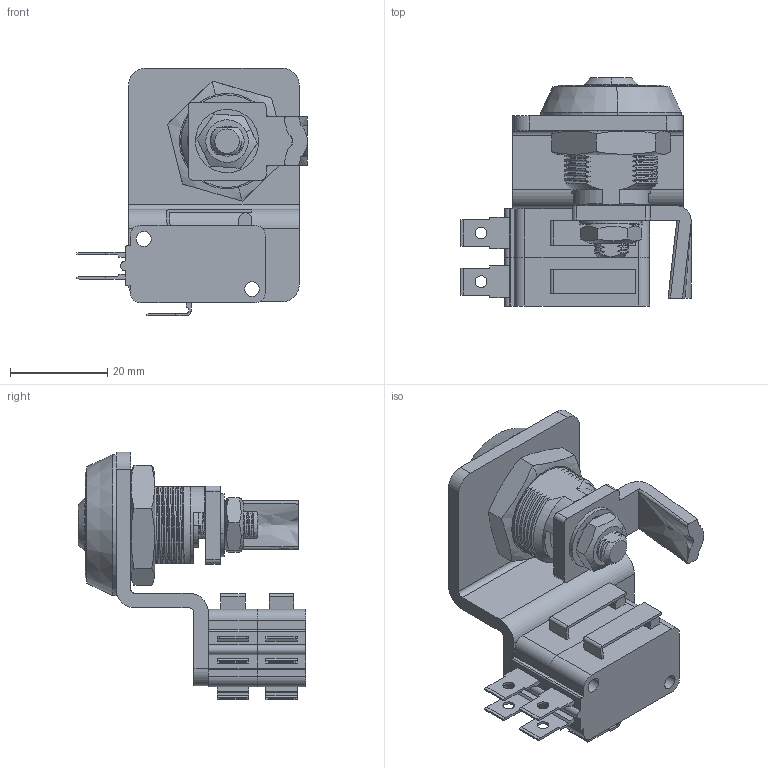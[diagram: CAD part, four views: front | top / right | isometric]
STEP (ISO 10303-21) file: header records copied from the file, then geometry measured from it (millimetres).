
FILE_DESCRIPTION (( 'STEP AP214' ), '1' );
FILE_NAME ('C99 KC-140SW.stp', '2012-09-03T06:23:25', ( '' ), ( '' ), 'SwSTEP 2.0', 'SolidWorks 2012', '' );
FILE_SCHEMA (( 'AUTOMOTIVE_DESIGN' ));
Length unit declared in the file: millimetre
Products named in the file (10): PLUG; LOCK HANDLE; NUT; toothed lock washer - internal_ks_KS 1325 I - M7; IDEL RING; NUT2; BRACKET; FLANGE; C99 KC-140SW; SWITCH
Assembly tree (10 placements, depth 2):
  C99 KC-140SW
    FLANGE
    BRACKET
    NUT2
    IDEL RING
    toothed lock washer - internal_ks_KS 1325 I - M7
    NUT
    LOCK HANDLE
    PLUG
    SWITCH  x2
Bounding box: 47.39 x 46.8 x 50.9 mm (x, y, z)
Volume: 25050.7 mm3; surface area: 18160.1 mm2
Topology: 20 solids, 20 shells, 535 faces, 1452 edges, 962 vertices
Faces by surface type: plane 224, cylinder 179, bspline 115, cone 17
Entity records: 65610 total; most frequent: CARTESIAN_POINT 50165, ORIENTED_EDGE 2442, DIRECTION 1690, EDGE_CURVE 1221, VERTEX_POINT 808, AXIS2_PLACEMENT_3D 569, LINE 552, VECTOR 552
